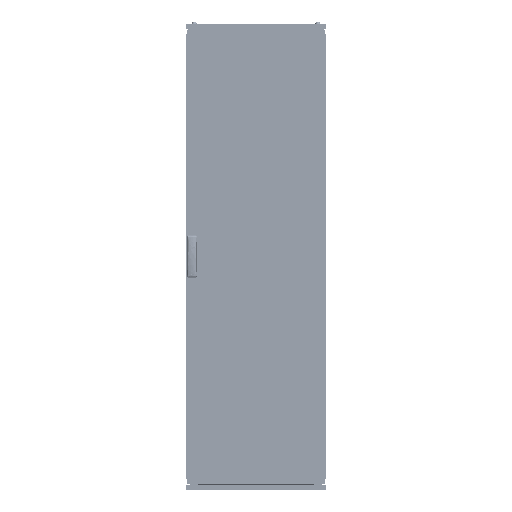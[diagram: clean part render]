
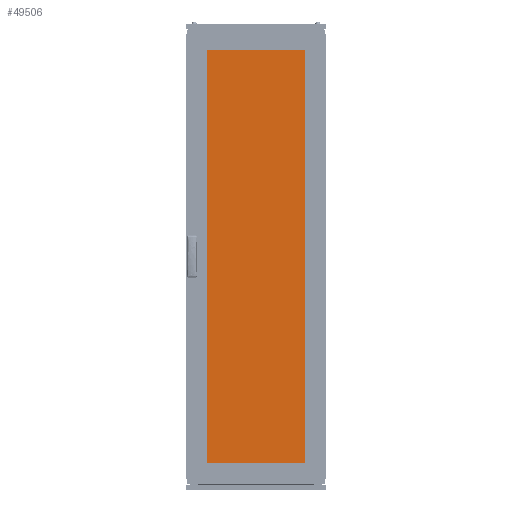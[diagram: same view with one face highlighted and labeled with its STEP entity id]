
A CAD part, top view. The second image highlights one B-rep face of the part: STEP entity #49506.
In plain terms, the highlighted planar face has unit normal (0, 0, 1).
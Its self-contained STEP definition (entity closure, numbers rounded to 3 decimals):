
#2654 = VECTOR ( 'NONE', #220714, 1000. ) ;
#8544 = EDGE_CURVE ( 'NONE', #129821, #150807, #185761, .T. ) ;
#12717 = ORIENTED_EDGE ( 'NONE', *, *, #146814, .T. ) ;
#29515 = DIRECTION ( 'NONE',  ( 1., 0., 0. ) ) ;
#34394 = AXIS2_PLACEMENT_3D ( 'NONE', #62646, #61504, #112728 ) ;
#39975 = ORIENTED_EDGE ( 'NONE', *, *, #127473, .T. ) ;
#41436 = CARTESIAN_POINT ( 'NONE',  ( -230., -910., 5. ) ) ;
#43348 = CARTESIAN_POINT ( 'NONE',  ( -230., 910., 5. ) ) ;
#48538 = EDGE_LOOP ( 'NONE', ( #159813, #12717, #110053, #39975 ) ) ;
#49506 = ADVANCED_FACE ( 'NONE', ( #220957 ), #165102, .F. ) ;
#61504 = DIRECTION ( 'NONE',  ( 0., 0., -1. ) ) ;
#62381 = DIRECTION ( 'NONE',  ( 0., -1., 0. ) ) ;
#62646 = CARTESIAN_POINT ( 'NONE',  ( 0., 0., 5. ) ) ;
#66569 = VECTOR ( 'NONE', #193529, 1000. ) ;
#89516 = LINE ( 'NONE', #148597, #2654 ) ;
#91692 = EDGE_CURVE ( 'NONE', #117141, #189248, #125698, .T. ) ;
#110053 = ORIENTED_EDGE ( 'NONE', *, *, #8544, .T. ) ;
#112728 = DIRECTION ( 'NONE',  ( -1., 0., 0. ) ) ;
#113240 = CARTESIAN_POINT ( 'NONE',  ( 230., -910., 5. ) ) ;
#117141 = VERTEX_POINT ( 'NONE', #113240 ) ;
#125698 = LINE ( 'NONE', #196657, #66569 ) ;
#127473 = EDGE_CURVE ( 'NONE', #150807, #117141, #208768, .T. ) ;
#129821 = VERTEX_POINT ( 'NONE', #43348 ) ;
#131691 = CARTESIAN_POINT ( 'NONE',  ( -230., -910., 5. ) ) ;
#146814 = EDGE_CURVE ( 'NONE', #189248, #129821, #89516, .T. ) ;
#148597 = CARTESIAN_POINT ( 'NONE',  ( -230., 910., 5. ) ) ;
#150807 = VERTEX_POINT ( 'NONE', #131691 ) ;
#159813 = ORIENTED_EDGE ( 'NONE', *, *, #91692, .T. ) ;
#161154 = CARTESIAN_POINT ( 'NONE',  ( 230., 910., 5. ) ) ;
#165102 = PLANE ( 'NONE',  #34394 ) ;
#182438 = VECTOR ( 'NONE', #62381, 1000. ) ;
#185761 = LINE ( 'NONE', #41436, #182438 ) ;
#189030 = CARTESIAN_POINT ( 'NONE',  ( -230., -910., 5. ) ) ;
#189248 = VERTEX_POINT ( 'NONE', #161154 ) ;
#193529 = DIRECTION ( 'NONE',  ( 0., 1., 0. ) ) ;
#196657 = CARTESIAN_POINT ( 'NONE',  ( 230., -910., 5. ) ) ;
#208768 = LINE ( 'NONE', #189030, #212253 ) ;
#212253 = VECTOR ( 'NONE', #29515, 1000. ) ;
#220714 = DIRECTION ( 'NONE',  ( -1., 0., 0. ) ) ;
#220957 = FACE_OUTER_BOUND ( 'NONE', #48538, .T. ) ;
